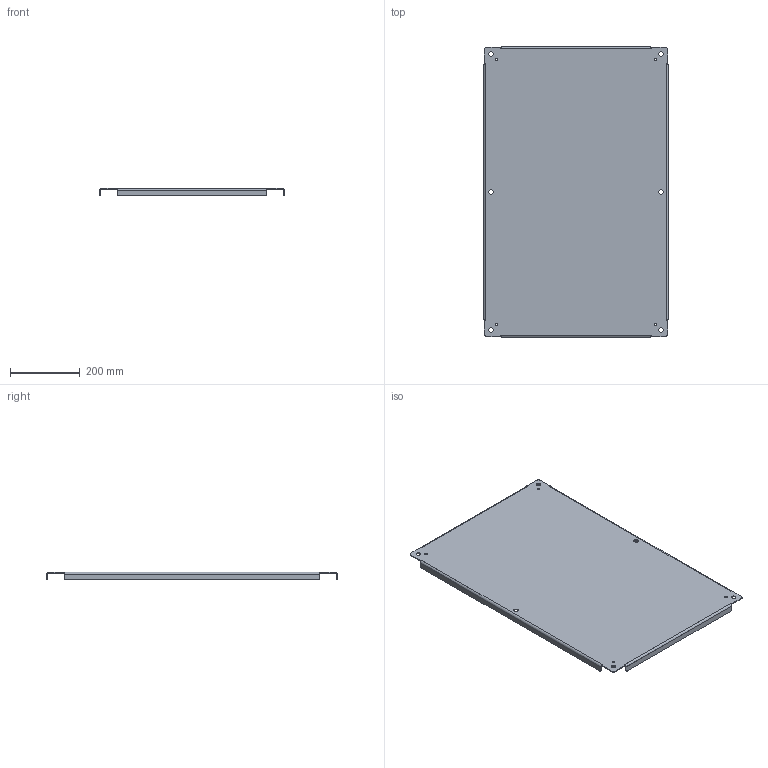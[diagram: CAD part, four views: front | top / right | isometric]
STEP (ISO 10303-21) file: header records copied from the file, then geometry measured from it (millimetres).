
FILE_DESCRIPTION((''),'2;1');
FILE_NAME('SCE-36P24SS_ASM','2009-05-19T',('mikek'),(''),'PRO/ENGINEER BY PARAMETRIC TECHNOLOGY CORPORATION, 2008010','PRO/ENGINEER BY PARAMETRIC TECHNOLOGY CORPORATION, 2008010','');
FILE_SCHEMA(('CONFIG_CONTROL_DESIGN'));
Length unit declared in the file: inch
Products named in the file (2): SCE-36P24SS-SUBPNL; SCE-36P24SS_ASM
Assembly tree (1 placements, depth 2):
  SCE-36P24SS_ASM
    SCE-36P24SS-SUBPNL
Bounding box: 531.91 x 836.71 x 21.79 mm (x, y, z)
Volume: 1275290.6 mm3; surface area: 973929.3 mm2
Topology: 1 solids, 1 shells, 102 faces, 268 edges, 168 vertices
Faces by surface type: cylinder 40, plane 38, bspline 24
Entity records: 3739 total; most frequent: CARTESIAN_POINT 1141, ORIENTED_EDGE 536, DIRECTION 510, EDGE_CURVE 268, AXIS2_PLACEMENT_3D 177, VERTEX_POINT 168, VECTOR 156, LINE 156
